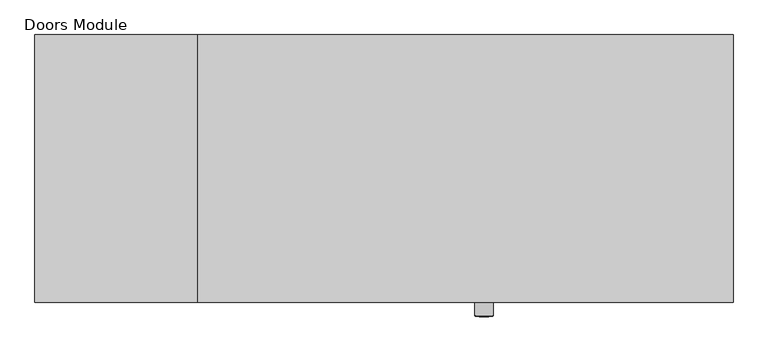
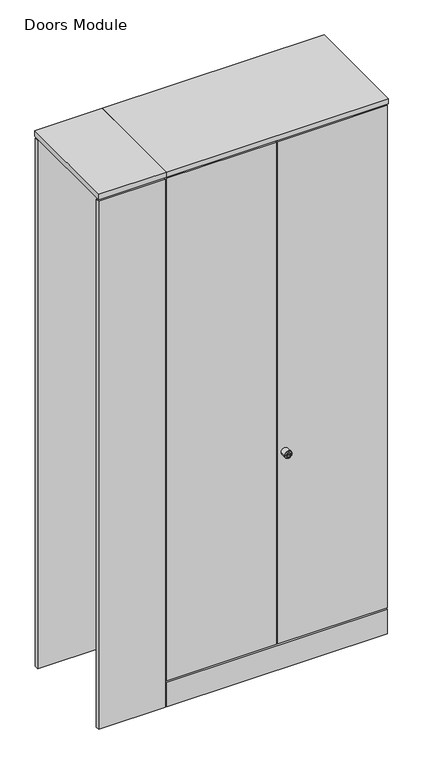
"""IFC4 building model written with IfcOpenShell, lengths in millimetres: furniture geometry, Furniture_Storage_Spacestor_SignatureStoragewall : Doors Module."""

from ifc_helpers import new_model, si_unit, point, frame, origin, origin_with_axes, place, context, project, spatial, polyline, circle_curve, ellipse_curve, trimmed, outline, extrude, source, transform, mapped, element, save
from ifc_brep_helpers import plane_surface, cylinder_surface, revolved_surface, advanced_brep


def doors_module_63813612(model_context):
    return source(origin(), model_context, "Body", "SolidModel", [
        extrude(outline(polyline([(0.0, -20.5), (-303.5, -20.5), (-303.5, 479.5), (0.0, 479.5), (0.0, -20.5)])), frame((0.0, 0.0, 2525.0), z_axis=(0.0, 0.0, 1.0), x_axis=(1.0, 0.0, 0.0)), (0.0, 0.0, 1.0), 25.5),
        extrude(outline(polyline([(996.5, 459.0), (3.5, 459.0), (3.5, 477.0), (996.5, 477.0), (996.5, 459.0)])), origin_with_axes(), (0.0, 0.0, 1.0), 2518.0),
        extrude(outline(polyline([(996.5, -18.0), (3.5, -18.0), (3.5, 0.0), (996.5, 0.0), (996.5, -18.0)])), origin_with_axes(), (0.0, 0.0, 1.0), 118.0),
        extrude(outline(polyline([(1000.0, -20.5), (0.0, -20.5), (0.0, 479.5), (1000.0, 479.5), (1000.0, -20.5)])), frame((0.0, 0.0, 2525.0), z_axis=(0.0, 0.0, 1.0), x_axis=(1.0, 0.0, 0.0)), (0.0, 0.0, 1.0), 25.5),
        extrude(outline(polyline([(-3.5, -18.0), (-303.5, -18.0), (-303.5, 0.0), (-3.5, 0.0), (-3.5, -18.0)])), origin_with_axes(), (0.0, 0.0, 1.0), 2515.5),
        extrude(outline(polyline([(-3.5, 459.0), (-303.5, 459.0), (-303.5, 477.0), (-3.5, 477.0), (-3.5, 459.0)])), origin_with_axes(), (0.0, 0.0, 1.0), 2515.5),
        extrude(outline(polyline([(0.0, 0.0), (-11.0, 0.0), (-11.0, 459.0), (0.0, 459.0), (0.0, 0.0)])), origin_with_axes(), (0.0, 0.0, 1.0), 2532.5),
        extrude(outline(polyline([(1000.0, 0.0), (989.0, 0.0), (989.0, 459.0), (1000.0, 459.0), (1000.0, 0.0)])), origin_with_axes(), (0.0, 0.0, 1.0), 2532.5),
        extrude(outline(polyline([(11.0, 0.0), (0.0, 0.0), (0.0, 459.0), (11.0, 459.0), (11.0, 0.0)])), origin_with_axes(), (0.0, 0.0, 1.0), 2532.5),
        extrude(outline(polyline([(989.0, 0.0), (11.0, 0.0), (11.0, 459.0), (989.0, 459.0), (989.0, 0.0)])), frame((0.0, 0.0, 2023.0), z_axis=(0.0, 0.0, 1.0), x_axis=(1.0, 0.0, 0.0)), (0.0, 0.0, 1.0), 22.0),
        extrude(outline(polyline([(989.0, 0.0), (11.0, 0.0), (11.0, 459.0), (989.0, 459.0), (989.0, 0.0)])), frame((0.0, 0.0, 1639.0), z_axis=(0.0, 0.0, 1.0), x_axis=(1.0, 0.0, 0.0)), (0.0, 0.0, 1.0), 22.0),
        extrude(outline(polyline([(989.0, 0.0), (11.0, 0.0), (11.0, 459.0), (989.0, 459.0), (989.0, 0.0)])), frame((0.0, 0.0, 1255.0), z_axis=(0.0, 0.0, 1.0), x_axis=(1.0, 0.0, 0.0)), (0.0, 0.0, 1.0), 22.0),
        extrude(outline(polyline([(989.0, 0.0), (11.0, 0.0), (11.0, 459.0), (989.0, 459.0), (989.0, 0.0)])), frame((0.0, 0.0, 871.0), z_axis=(0.0, 0.0, 1.0), x_axis=(1.0, 0.0, 0.0)), (0.0, 0.0, 1.0), 22.0),
        extrude(outline(polyline([(989.0, 0.0), (11.0, 0.0), (11.0, 459.0), (989.0, 459.0), (989.0, 0.0)])), frame((0.0, 0.0, 487.0), z_axis=(0.0, 0.0, 1.0), x_axis=(1.0, 0.0, 0.0)), (0.0, 0.0, 1.0), 22.0),
        advanced_brep(
        [(552.0, -45.3116344, 1032.0), (518.0, -45.3116344, 1032.0), (518.0, -18.0, 1032.0), (552.0, -18.0, 1032.0), (535.0, -18.0, 1032.0), (543.9747319, -46.3150077, 1032.0), (526.0252681, -46.3150077, 1032.0), (519.0033734, -46.3150077, 1032.0), (550.9966266, -46.3150077, 1032.0), (543.9747319, -47.4703043, 1032.0), (526.0252681, -47.4703043, 1032.0), (539.8245152, -47.4703043, 1032.0), (539.8245152, -47.4703043, 1030.6366562), (530.1754848, -47.4703043, 1030.6366562), (530.1754848, -47.4703043, 1032.0), (530.1754848, -47.4703043, 1033.3633438), (539.8245152, -47.4703043, 1033.3633438), (530.1754848, -27.8604291, 1030.6366562), (539.8245152, -27.8604291, 1030.6366562), (539.8245152, -27.8604291, 1033.3633438), (530.1754848, -27.8604291, 1033.3633438)],
        [
            (0, 1, circle_curve(frame((535.0, -45.3116344, 1032.0), z_axis=(0.0, 1.0, 0.0), x_axis=(-1.0, 0.0, 0.0)), 17.0)),
            (1, 2),
            (2, 3, circle_curve(frame((535.0, -18.0, 1032.0), z_axis=(0.0, -1.0, 0.0), x_axis=(-1.0, 0.0, 0.0)), 17.0)),
            (3, 0),
            (1, 0, circle_curve(frame((535.0, -45.3116344, 1032.0), z_axis=(0.0, 1.0, 0.0), x_axis=(-1.0, 0.0, 0.0)), 17.0)),
            (3, 2, circle_curve(frame((535.0, -18.0, 1032.0), z_axis=(0.0, -1.0, 0.0), x_axis=(-1.0, 0.0, 0.0)), 17.0)),
            (2, 4),
            (4, 3),
            (5, 6, circle_curve(frame((535.0, -46.3150077, 1032.0), z_axis=(0.0, 1.0, 0.0), x_axis=(-1.0, 0.0, 0.0)), 8.9747319)),
            (6, 7),
            (7, 8, circle_curve(frame((535.0, -46.3150077, 1032.0), z_axis=(0.0, -1.0, 0.0), x_axis=(-1.0, 0.0, 0.0)), 15.9966266)),
            (8, 5),
            (6, 5, circle_curve(frame((535.0, -46.3150077, 1032.0), z_axis=(0.0, 1.0, 0.0), x_axis=(-1.0, 0.0, 0.0)), 8.9747319)),
            (8, 7, circle_curve(frame((535.0, -46.3150077, 1032.0), z_axis=(0.0, -1.0, 0.0), x_axis=(-1.0, 0.0, 0.0)), 15.9966266)),
            (0, 8, circle_curve(frame((550.9966266, -45.3116344, 1032.0), z_axis=(0.0, 0.0, -1.0), x_axis=(1.0, 0.0, 0.0)), 1.0033734)),
            (7, 1, circle_curve(frame((519.0033734, -45.3116344, 1032.0), z_axis=(0.0, 0.0, -1.0), x_axis=(-1.0, 0.0, 0.0)), 1.0033734)),
            (5, 9),
            (9, 10, circle_curve(frame((535.0, -47.4703043, 1032.0), z_axis=(0.0, 1.0, 0.0), x_axis=(-1.0, 0.0, 0.0)), 8.9747319)),
            (10, 6),
            (10, 9, circle_curve(frame((535.0, -47.4703043, 1032.0), z_axis=(0.0, 1.0, 0.0), x_axis=(-1.0, 0.0, 0.0)), 8.9747319)),
            (9, 11),
            (11, 12),
            (12, 13),
            (13, 14),
            (14, 10),
            (14, 15),
            (15, 16),
            (16, 11),
            (17, 18),
            (18, 19),
            (19, 20),
            (20, 17),
            (17, 13),
            (12, 18),
            (16, 19),
            (15, 20),
        ],
        [
            cylinder_surface(frame((535.0, -2627.0581012, 1032.0), z_axis=(0.0, -1.0, 0.0), x_axis=(-1.0, 0.0, 0.0)), 17.0),
            plane_surface(frame((535.0, -18.0, 1032.0), z_axis=(0.0, 1.0, 0.0), x_axis=(-1.0, 0.0, 0.0))),
            plane_surface(frame((535.0, -46.3150077, 1032.0), z_axis=(0.0, -1.0, 0.0), x_axis=(-1.0, 0.0, 0.0))),
            revolved_surface(trimmed(ellipse_curve(frame((519.0033734, -45.3116344, 1032.0), z_axis=(0.0, 0.0, 1.0), x_axis=(-1.0, 0.0, 0.0)), 1.0033734, 1.0033734), [point((518.0, -45.3116344, 1032.0))], [point((519.0033734, -46.3150077, 1032.0))], True, "CARTESIAN"), (535.0, -2627.0581012, 1032.0), (0.0, -1.0, 0.0)),
            cylinder_surface(frame((535.0, -2627.0581012, 1032.0), z_axis=(0.0, -1.0, 0.0), x_axis=(-1.0, 0.0, 0.0)), 8.9747319),
            plane_surface(frame((535.0, -47.4703043, 1032.0), z_axis=(0.0, -1.0, 0.0), x_axis=(-1.0, 0.0, 0.0))),
            plane_surface(frame((539.4565249, -27.8604291, 1030.6366562), z_axis=(0.0, -1.0, 0.0), x_axis=(-1.0, 0.0, 0.0))),
            plane_surface(frame((530.1754848, -49.2046383, 1030.6366562), z_axis=(0.0, 0.0, 1.0), x_axis=(0.0, 1.0, 0.0))),
            plane_surface(frame((539.8245152, -49.2046383, 1030.6366562), z_axis=(-1.0, 0.0, 0.0), x_axis=(0.0, 1.0, 0.0))),
            plane_surface(frame((539.8245152, -49.2046383, 1033.3633438), z_axis=(0.0, 0.0, -1.0), x_axis=(0.0, 1.0, 0.0))),
            plane_surface(frame((530.1754848, -49.2046383, 1033.3633438), z_axis=(1.0, 0.0, 0.0), x_axis=(0.0, 1.0, 0.0))),
        ],
        [
            (0, [[1, 2, 3, 4]]),
            (0, [[-2, 5, -4, 6]]),
            (1, [[-3, 7, 8]]),
            (1, [[-6, -8, -7]]),
            (2, [[9, 10, 11, 12]]),
            (2, [[-10, 13, -12, 14]]),
            (3, [[-1, 15, -11, 16]]),
            (3, [[-5, -16, -14, -15]]),
            (4, [[-9, 17, 18, 19]]),
            (4, [[-13, -19, 20, -17]]),
            (5, [[-18, 21, 22, 23, 24, 25]]),
            (5, [[-20, -25, 26, 27, 28, -21]]),
            (6, [[29, 30, 31, 32]]),
            (7, [[-29, 33, -23, 34]]),
            (8, [[-30, -34, -22, -28, 35]]),
            (9, [[-31, -35, -27, 36]]),
            (10, [[-32, -36, -26, -24, -33]]),
        ],
    ),
        extrude(outline(polyline([(3.5, -18.0), (3.5, 0.0), (496.5, 0.0), (496.5, -18.0), (3.5, -18.0)])), frame((0.0, 0.0, 125.0), z_axis=(0.0, 0.0, 1.0), x_axis=(1.0, 0.0, 0.0)), (0.0, 0.0, 1.0), 2393.0),
        extrude(outline(polyline([(996.5, -18.0), (503.5, -18.0), (503.5, 0.0), (996.5, 0.0), (996.5, -18.0)])), frame((0.0, 0.0, 125.0), z_axis=(0.0, 0.0, 1.0), x_axis=(1.0, 0.0, 0.0)), (0.0, 0.0, 1.0), 2393.0),
        extrude(outline(polyline([(989.0, 0.0), (11.0, 0.0), (11.0, 459.0), (989.0, 459.0), (989.0, 0.0)])), frame((0.0, 0.0, 110.5), z_axis=(0.0, 0.0, 1.0), x_axis=(1.0, 0.0, 0.0)), (0.0, 0.0, 1.0), 22.0),
        extrude(outline(polyline([(989.0, 0.0), (11.0, 0.0), (11.0, 459.0), (989.0, 459.0), (989.0, 0.0)])), frame((0.0, 0.0, 2510.0), z_axis=(0.0, 0.0, 1.0), x_axis=(1.0, 0.0, 0.0)), (0.0, 0.0, 1.0), 22.0),
    ])


if __name__ == "__main__":
    model = new_model("IFC4")
    model_context = context("Model", 3, world=origin())
    ifc_project = project(units=[si_unit("LENGTHUNIT", "METRE", prefix="MILLI")], contexts=[model_context])
    site = spatial("IfcSite", under=ifc_project)
    building = spatial("IfcBuilding", under=site)
    placement = place(None, origin())
    doors_module_shape = doors_module_63813612(model_context)
    element("IfcFurniture", 1, ObjectType="Furniture_Storage_Spacestor_SignatureStoragewall : Doors Module", at=placement, inside=building, context=model_context, shape_type="MappedRepresentation", body=[
        mapped(doors_module_shape, transform((0.0, 0.0, 0.0), x_axis=(1.0, 0.0, 0.0), y_axis=(0.0, 1.0, 0.0), z_axis=(0.0, 0.0, 1.0))),
    ])
    save(model, "model.ifc")
